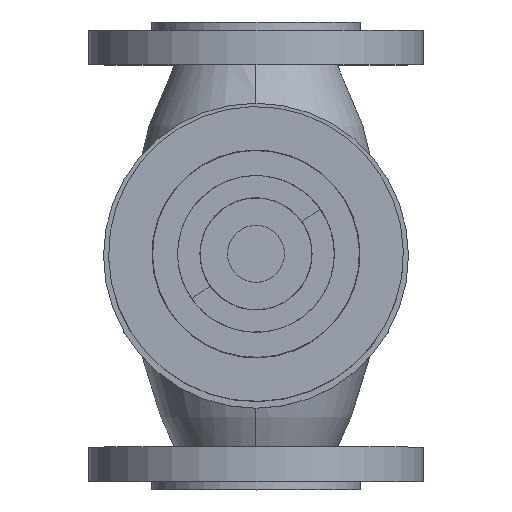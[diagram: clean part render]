
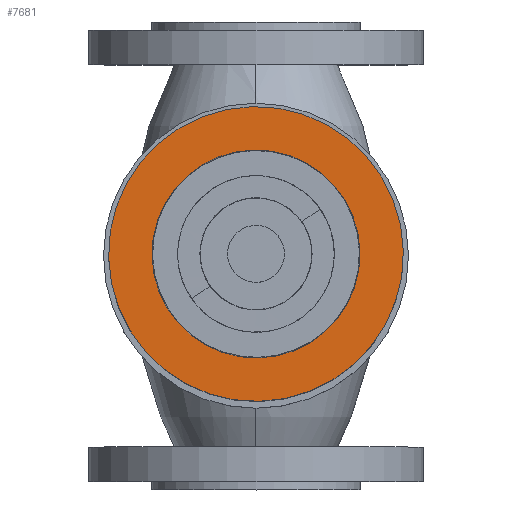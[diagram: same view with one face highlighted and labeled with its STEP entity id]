
A CAD part, top view. The second image highlights one B-rep face of the part: STEP entity #7681.
In plain terms, the highlighted planar face has unit normal (0, 0, 1).
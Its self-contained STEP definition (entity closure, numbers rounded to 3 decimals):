
#131 = CARTESIAN_POINT ( 'NONE',  ( 1.502, 4.816, 84.099 ) ) ;
#186 = EDGE_LOOP ( 'NONE', ( #3008, #6366 ) ) ;
#196 = CARTESIAN_POINT ( 'NONE',  ( -49.088, 12.401, 84.099 ) ) ;
#288 = CIRCLE ( 'NONE', #7789, 72.5 ) ;
#489 = DIRECTION ( 'NONE',  ( 0., 0., -1. ) ) ;
#535 = CARTESIAN_POINT ( 'NONE',  ( 1.502, 4.816, 84.099 ) ) ;
#711 = AXIS2_PLACEMENT_3D ( 'NONE', #5664, #3506, #4312 ) ;
#844 = VERTEX_POINT ( 'NONE', #3011 ) ;
#1258 = VERTEX_POINT ( 'NONE', #9091 ) ;
#1406 = EDGE_CURVE ( 'NONE', #8753, #844, #4755, .T. ) ;
#1588 = DIRECTION ( 'NONE',  ( -1., 0., 0. ) ) ;
#1668 = CARTESIAN_POINT ( 'NONE',  ( 1.502, 4.816, 84.099 ) ) ;
#2346 = VERTEX_POINT ( 'NONE', #3773 ) ;
#2591 = DIRECTION ( 'NONE',  ( 0., 0., -1. ) ) ;
#3008 = ORIENTED_EDGE ( 'NONE', *, *, #7328, .T. ) ;
#3011 = CARTESIAN_POINT ( 'NONE',  ( 52.093, -2.769, 84.099 ) ) ;
#3022 = DIRECTION ( 'NONE',  ( 0., 0., -1. ) ) ;
#3083 = CIRCLE ( 'NONE', #6697, 72.5 ) ;
#3506 = DIRECTION ( 'NONE',  ( 0., 0., -1. ) ) ;
#3664 = ORIENTED_EDGE ( 'NONE', *, *, #5930, .F. ) ;
#3773 = CARTESIAN_POINT ( 'NONE',  ( 73.201, -5.933, 84.099 ) ) ;
#3813 = AXIS2_PLACEMENT_3D ( 'NONE', #535, #489, #6221 ) ;
#4044 = DIRECTION ( 'NONE',  ( 0., -1., 0. ) ) ;
#4312 = DIRECTION ( 'NONE',  ( -1., 0., 0. ) ) ;
#4755 = CIRCLE ( 'NONE', #711, 51.156 ) ;
#4933 = EDGE_LOOP ( 'NONE', ( #7009, #3664 ) ) ;
#5170 = AXIS2_PLACEMENT_3D ( 'NONE', #8266, #2591, #4044 ) ;
#5370 = PLANE ( 'NONE',  #5170 ) ;
#5664 = CARTESIAN_POINT ( 'NONE',  ( 1.502, 4.816, 84.099 ) ) ;
#5857 = DIRECTION ( 'NONE',  ( 0., 0., -1. ) ) ;
#5930 = EDGE_CURVE ( 'NONE', #2346, #1258, #288, .T. ) ;
#6069 = FACE_BOUND ( 'NONE', #186, .T. ) ;
#6221 = DIRECTION ( 'NONE',  ( -1., 0., 0. ) ) ;
#6366 = ORIENTED_EDGE ( 'NONE', *, *, #1406, .T. ) ;
#6495 = DIRECTION ( 'NONE',  ( -1., 0., 0. ) ) ;
#6697 = AXIS2_PLACEMENT_3D ( 'NONE', #131, #5857, #1588 ) ;
#7009 = ORIENTED_EDGE ( 'NONE', *, *, #8095, .F. ) ;
#7328 = EDGE_CURVE ( 'NONE', #844, #8753, #7879, .T. ) ;
#7590 = FACE_OUTER_BOUND ( 'NONE', #4933, .T. ) ;
#7681 = ADVANCED_FACE ( 'NONE', ( #6069, #7590 ), #5370, .F. ) ;
#7789 = AXIS2_PLACEMENT_3D ( 'NONE', #1668, #3022, #6495 ) ;
#7879 = CIRCLE ( 'NONE', #3813, 51.156 ) ;
#8095 = EDGE_CURVE ( 'NONE', #1258, #2346, #3083, .T. ) ;
#8266 = CARTESIAN_POINT ( 'NONE',  ( 28.106, -40.14, 84.099 ) ) ;
#8753 = VERTEX_POINT ( 'NONE', #196 ) ;
#9091 = CARTESIAN_POINT ( 'NONE',  ( -70.196, 15.566, 84.099 ) ) ;
